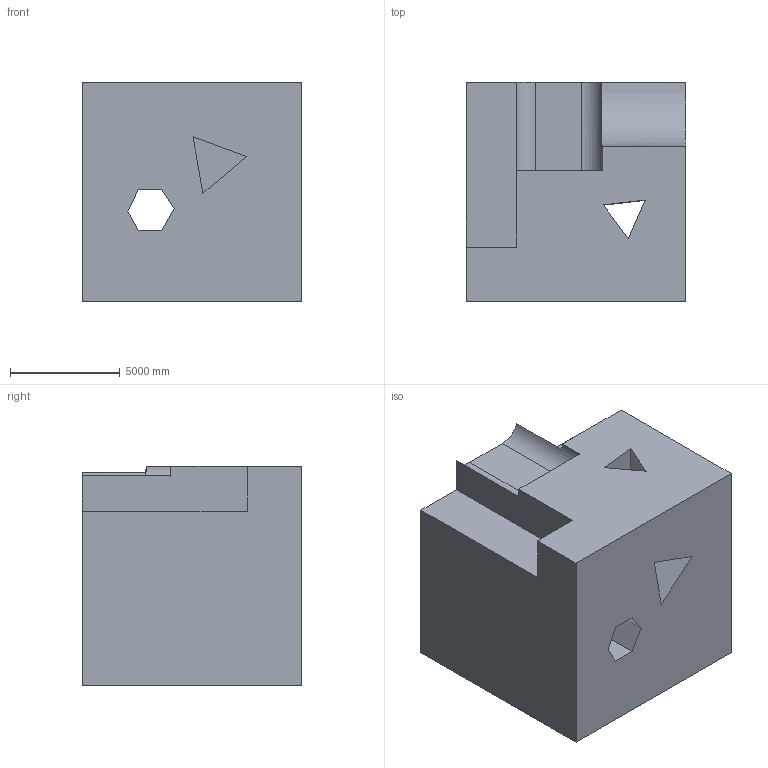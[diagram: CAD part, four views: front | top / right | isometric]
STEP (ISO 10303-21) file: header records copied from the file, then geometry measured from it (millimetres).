
FILE_DESCRIPTION (( 'STEP AP203' ), '1' );
FILE_NAME ('1635.STEP', '2022-08-26T10:31:02', ( 'user' ), ( '' ), 'SwSTEP 2.0', 'SolidWorks 2021', '' );
FILE_SCHEMA (( 'CONFIG_CONTROL_DESIGN' ));
Length unit declared in the file: centimetre
Products named in the file (1): 1635
Bounding box: 10000 x 10000 x 10000 mm (x, y, z)
Volume: 843716883261.1 mm3; surface area: 750544642.7 mm2
Topology: 1 solids, 1 shells, 32 faces, 87 edges, 58 vertices
Faces by surface type: plane 29, cylinder 3
Entity records: 1089 total; most frequent: CARTESIAN_POINT 187, ORIENTED_EDGE 174, DIRECTION 158, EDGE_CURVE 87, LINE 80, VECTOR 80, VERTEX_POINT 58, AXIS2_PLACEMENT_3D 39
